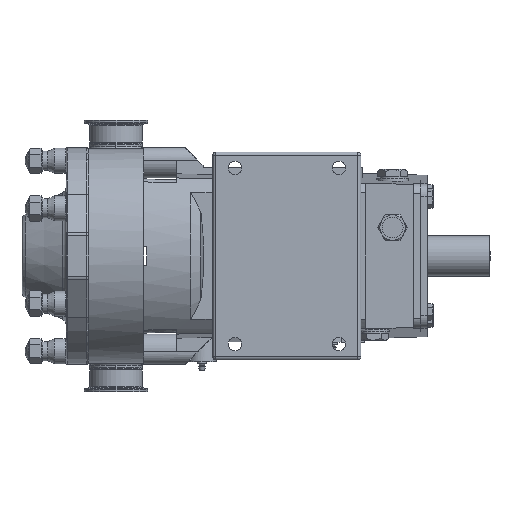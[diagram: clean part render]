
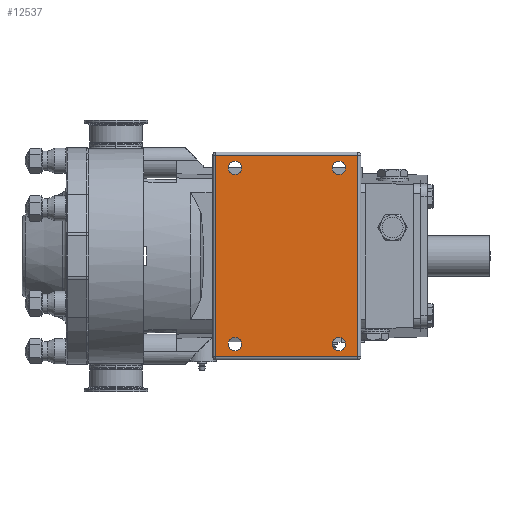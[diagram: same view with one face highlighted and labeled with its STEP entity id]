
A CAD part, front view. The second image highlights one B-rep face of the part: STEP entity #12537.
In plain terms, the highlighted planar face has unit normal (0, -1, 0).
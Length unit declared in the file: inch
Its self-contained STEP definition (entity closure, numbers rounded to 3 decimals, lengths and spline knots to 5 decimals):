
#961 = CARTESIAN_POINT ( 'NONE',  ( 7.47935, -7.31, -3.5 ) ) ;
#962 = DIRECTION ( 'NONE',  ( -1., 0., 0. ) ) ;
#963 = DIRECTION ( 'NONE',  ( 0., -1., 0. ) ) ;
#964 = AXIS2_PLACEMENT_3D ( 'NONE', #971, #963, #962 ) ;
#965 = CIRCLE ( 'NONE', #964, 0.26565 ) ;
#971 = CARTESIAN_POINT ( 'NONE',  ( 7.745, -7.31, -3.5 ) ) ;
#1100 = CARTESIAN_POINT ( 'NONE',  ( 8.01065, -7.31, 3.5 ) ) ;
#1182 = DIRECTION ( 'NONE',  ( -1., 0., 0. ) ) ;
#1183 = DIRECTION ( 'NONE',  ( 0., -1., 0. ) ) ;
#1184 = CARTESIAN_POINT ( 'NONE',  ( 7.745, -7.31, 3.5 ) ) ;
#1185 = AXIS2_PLACEMENT_3D ( 'NONE', #1184, #1183, #1182 ) ;
#1186 = CIRCLE ( 'NONE', #1185, 0.26565 ) ;
#1192 = CARTESIAN_POINT ( 'NONE',  ( 8.01065, -7.31, -3.5 ) ) ;
#12522 = EDGE_LOOP ( 'NONE', ( #12526, #12530 ) ) ;
#12526 = ORIENTED_EDGE ( 'NONE', *, *, #34038, .F. ) ;
#12530 = ORIENTED_EDGE ( 'NONE', *, *, #12532, .F. ) ;
#12532 = EDGE_CURVE ( 'NONE', #31402, #34013, #22288, .T. ) ;
#12533 = EDGE_LOOP ( 'NONE', ( #12749, #12754 ) ) ;
#12537 = ADVANCED_FACE ( 'NONE', ( #22271, #22270, #22269, #22268, #22267 ), #22316, .T. ) ;
#12538 = EDGE_LOOP ( 'NONE', ( #12542, #12728 ) ) ;
#12542 = ORIENTED_EDGE ( 'NONE', *, *, #33921, .F. ) ;
#12696 = ORIENTED_EDGE ( 'NONE', *, *, #14441, .T. ) ;
#12700 = ORIENTED_EDGE ( 'NONE', *, *, #12702, .T. ) ;
#12702 = EDGE_CURVE ( 'NONE', #14421, #14318, #22626, .T. ) ;
#12705 = ORIENTED_EDGE ( 'NONE', *, *, #14317, .T. ) ;
#12710 = ORIENTED_EDGE ( 'NONE', *, *, #12711, .T. ) ;
#12711 = EDGE_CURVE ( 'NONE', #14344, #14430, #22614, .T. ) ;
#12728 = ORIENTED_EDGE ( 'NONE', *, *, #12729, .F. ) ;
#12729 = EDGE_CURVE ( 'NONE', #33923, #34035, #22689, .T. ) ;
#12734 = EDGE_LOOP ( 'NONE', ( #12737, #12743 ) ) ;
#12737 = ORIENTED_EDGE ( 'NONE', *, *, #31443, .F. ) ;
#12743 = ORIENTED_EDGE ( 'NONE', *, *, #12744, .F. ) ;
#12744 = EDGE_CURVE ( 'NONE', #31444, #31651, #22716, .T. ) ;
#12749 = ORIENTED_EDGE ( 'NONE', *, *, #31432, .F. ) ;
#12754 = ORIENTED_EDGE ( 'NONE', *, *, #12755, .F. ) ;
#12755 = EDGE_CURVE ( 'NONE', #31434, #31433, #22745, .T. ) ;
#12758 = EDGE_LOOP ( 'NONE', ( #12696, #12700, #12705, #12710 ) ) ;
#14317 = EDGE_CURVE ( 'NONE', #14318, #14344, #26608, .T. ) ;
#14318 = VERTEX_POINT ( 'NONE', #26599 ) ;
#14344 = VERTEX_POINT ( 'NONE', #26616 ) ;
#14421 = VERTEX_POINT ( 'NONE', #26715 ) ;
#14430 = VERTEX_POINT ( 'NONE', #26756 ) ;
#14441 = EDGE_CURVE ( 'NONE', #14430, #14421, #26744, .T. ) ;
#22267 = FACE_OUTER_BOUND ( 'NONE', #12758, .T. ) ;
#22268 = FACE_BOUND ( 'NONE', #12533, .T. ) ;
#22269 = FACE_BOUND ( 'NONE', #12522, .T. ) ;
#22270 = FACE_BOUND ( 'NONE', #12734, .T. ) ;
#22271 = FACE_BOUND ( 'NONE', #12538, .T. ) ;
#22284 = DIRECTION ( 'NONE',  ( -1., 0., 0. ) ) ;
#22285 = DIRECTION ( 'NONE',  ( 0., -1., 0. ) ) ;
#22286 = CARTESIAN_POINT ( 'NONE',  ( 7.745, -7.31, 3.5 ) ) ;
#22287 = AXIS2_PLACEMENT_3D ( 'NONE', #22286, #22285, #22284 ) ;
#22288 = CIRCLE ( 'NONE', #22287, 0.26565 ) ;
#22312 = DIRECTION ( 'NONE',  ( -1., 0., 0. ) ) ;
#22313 = DIRECTION ( 'NONE',  ( 0., -1., 0. ) ) ;
#22314 = CARTESIAN_POINT ( 'NONE',  ( 2.745, -7.31, 4.125 ) ) ;
#22315 = AXIS2_PLACEMENT_3D ( 'NONE', #22314, #22313, #22312 ) ;
#22316 = PLANE ( 'NONE',  #22315 ) ;
#22610 = DIRECTION ( 'NONE',  ( 1., 0., 0. ) ) ;
#22611 = VECTOR ( 'NONE', #22610, 39.37008 ) ;
#22612 = CARTESIAN_POINT ( 'NONE',  ( 2.745, -7.31, -4.005 ) ) ;
#22614 = LINE ( 'NONE', #22612, #22611 ) ;
#22619 = DIRECTION ( 'NONE',  ( -1., 0., 0. ) ) ;
#22620 = VECTOR ( 'NONE', #22619, 39.37008 ) ;
#22621 = CARTESIAN_POINT ( 'NONE',  ( 2.745, -7.31, 4.005 ) ) ;
#22626 = LINE ( 'NONE', #22621, #22620 ) ;
#22685 = DIRECTION ( 'NONE',  ( -1., 0., 0. ) ) ;
#22686 = DIRECTION ( 'NONE',  ( 0., -1., 0. ) ) ;
#22687 = CARTESIAN_POINT ( 'NONE',  ( 7.745, -7.31, -3.5 ) ) ;
#22688 = AXIS2_PLACEMENT_3D ( 'NONE', #22687, #22686, #22685 ) ;
#22689 = CIRCLE ( 'NONE', #22688, 0.26565 ) ;
#22713 = DIRECTION ( 'NONE',  ( -1., 0., 0. ) ) ;
#22714 = DIRECTION ( 'NONE',  ( 0., -1., 0. ) ) ;
#22715 = AXIS2_PLACEMENT_3D ( 'NONE', #22721, #22714, #22713 ) ;
#22716 = CIRCLE ( 'NONE', #22715, 0.26565 ) ;
#22721 = CARTESIAN_POINT ( 'NONE',  ( 3.62, -7.31, -3.5 ) ) ;
#22742 = DIRECTION ( 'NONE',  ( -1., 0., 0. ) ) ;
#22743 = DIRECTION ( 'NONE',  ( 0., -1., 0. ) ) ;
#22744 = AXIS2_PLACEMENT_3D ( 'NONE', #22752, #22743, #22742 ) ;
#22745 = CIRCLE ( 'NONE', #22744, 0.26565 ) ;
#22752 = CARTESIAN_POINT ( 'NONE',  ( 3.62, -7.31, 3.5 ) ) ;
#26599 = CARTESIAN_POINT ( 'NONE',  ( 2.865, -7.31, 4.005 ) ) ;
#26600 = DIRECTION ( 'NONE',  ( 0., 0., -1. ) ) ;
#26601 = VECTOR ( 'NONE', #26600, 39.37008 ) ;
#26602 = CARTESIAN_POINT ( 'NONE',  ( 2.865, -7.31, -4.125 ) ) ;
#26608 = LINE ( 'NONE', #26602, #26601 ) ;
#26616 = CARTESIAN_POINT ( 'NONE',  ( 2.865, -7.31, -4.005 ) ) ;
#26715 = CARTESIAN_POINT ( 'NONE',  ( 8.505, -7.31, 4.005 ) ) ;
#26741 = DIRECTION ( 'NONE',  ( 0., 0., 1. ) ) ;
#26742 = VECTOR ( 'NONE', #26741, 39.37008 ) ;
#26743 = CARTESIAN_POINT ( 'NONE',  ( 8.505, -7.31, 4.125 ) ) ;
#26744 = LINE ( 'NONE', #26743, #26742 ) ;
#26756 = CARTESIAN_POINT ( 'NONE',  ( 8.505, -7.31, -4.005 ) ) ;
#31402 = VERTEX_POINT ( 'NONE', #46411 ) ;
#31432 = EDGE_CURVE ( 'NONE', #31433, #31434, #46419, .T. ) ;
#31433 = VERTEX_POINT ( 'NONE', #46414 ) ;
#31434 = VERTEX_POINT ( 'NONE', #46475 ) ;
#31443 = EDGE_CURVE ( 'NONE', #31651, #31444, #46463, .T. ) ;
#31444 = VERTEX_POINT ( 'NONE', #46454 ) ;
#31651 = VERTEX_POINT ( 'NONE', #46896 ) ;
#33921 = EDGE_CURVE ( 'NONE', #34035, #33923, #965, .T. ) ;
#33923 = VERTEX_POINT ( 'NONE', #961 ) ;
#34013 = VERTEX_POINT ( 'NONE', #1100 ) ;
#34035 = VERTEX_POINT ( 'NONE', #1192 ) ;
#34038 = EDGE_CURVE ( 'NONE', #34013, #31402, #1186, .T. ) ;
#46411 = CARTESIAN_POINT ( 'NONE',  ( 7.47935, -7.31, 3.5 ) ) ;
#46414 = CARTESIAN_POINT ( 'NONE',  ( 3.88565, -7.31, 3.5 ) ) ;
#46415 = DIRECTION ( 'NONE',  ( -1., 0., 0. ) ) ;
#46416 = DIRECTION ( 'NONE',  ( 0., -1., 0. ) ) ;
#46417 = CARTESIAN_POINT ( 'NONE',  ( 3.62, -7.31, 3.5 ) ) ;
#46418 = AXIS2_PLACEMENT_3D ( 'NONE', #46417, #46416, #46415 ) ;
#46419 = CIRCLE ( 'NONE', #46418, 0.26565 ) ;
#46454 = CARTESIAN_POINT ( 'NONE',  ( 3.35435, -7.31, -3.5 ) ) ;
#46455 = DIRECTION ( 'NONE',  ( -1., 0., 0. ) ) ;
#46456 = DIRECTION ( 'NONE',  ( 0., -1., 0. ) ) ;
#46457 = CARTESIAN_POINT ( 'NONE',  ( 3.62, -7.31, -3.5 ) ) ;
#46458 = AXIS2_PLACEMENT_3D ( 'NONE', #46457, #46456, #46455 ) ;
#46463 = CIRCLE ( 'NONE', #46458, 0.26565 ) ;
#46475 = CARTESIAN_POINT ( 'NONE',  ( 3.35435, -7.31, 3.5 ) ) ;
#46896 = CARTESIAN_POINT ( 'NONE',  ( 3.88565, -7.31, -3.5 ) ) ;
